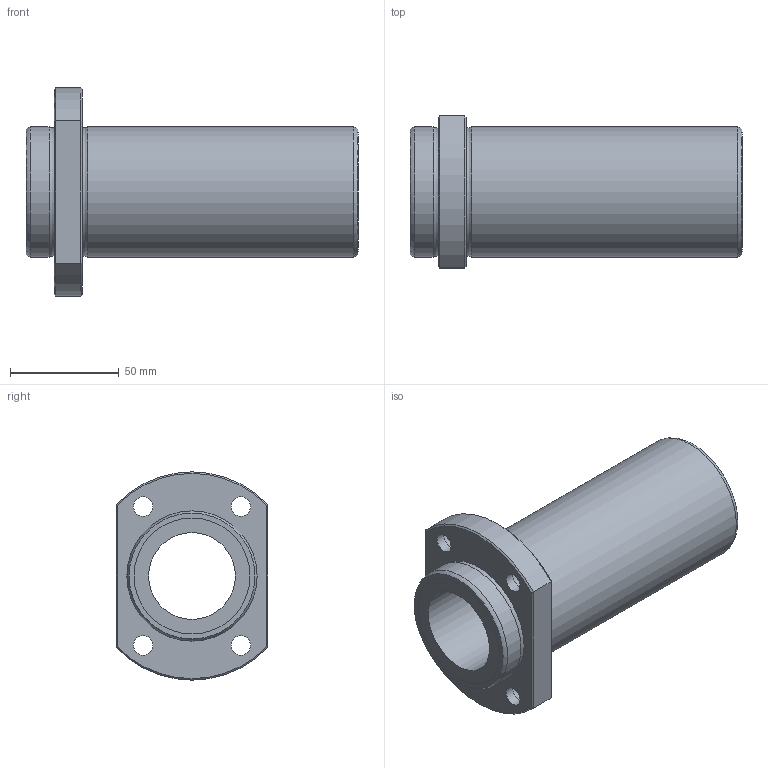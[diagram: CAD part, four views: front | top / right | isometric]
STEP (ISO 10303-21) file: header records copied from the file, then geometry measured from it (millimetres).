
FILE_DESCRIPTION((''),'2;1');
FILE_NAME('D:\製品 (図面)\カタログ用3D\リニアベアリング関連\STEP形式\LFDTB\LFDTB40B.stp','2010-06-03T09:54:38',('Tsuchiya'),(''),'Autodesk Inventor 10','Autodesk Inventor 10','');
FILE_SCHEMA(('AUTOMOTIVE_DESIGN { 1 0 10303 214 1 1 1 1 }'));
Length unit declared in the file: millimetre
Products named in the file (1): LFDTB40B
Bounding box: 153 x 70 x 96 mm (x, y, z)
Volume: 274979.9 mm3; surface area: 60131.2 mm2
Topology: 1 solids, 1 shells, 39 faces, 75 edges, 46 vertices
Faces by surface type: bspline 14, plane 12, cylinder 7, cone 4, torus 2
Full cylindrical faces by diameter (mm): 40 x1, 53.4 x2, 60 x2
Entity records: 1177 total; most frequent: CARTESIAN_POINT 440, DIRECTION 140, ORIENTED_EDGE 116, EDGE_LOOP 74, AXIS2_PLACEMENT_3D 64, EDGE_CURVE 58, VERTEX_POINT 46, FACE_OUTER_BOUND 39
